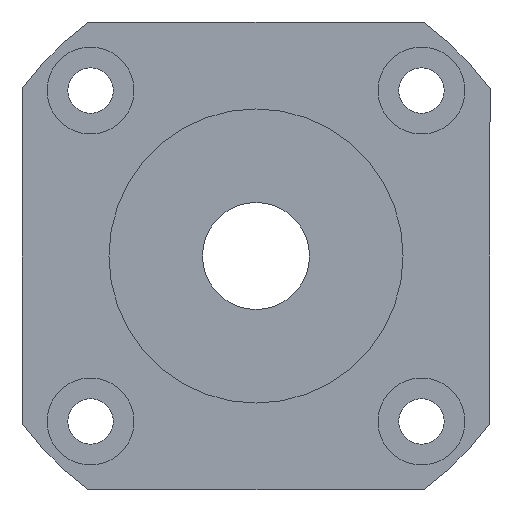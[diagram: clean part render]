
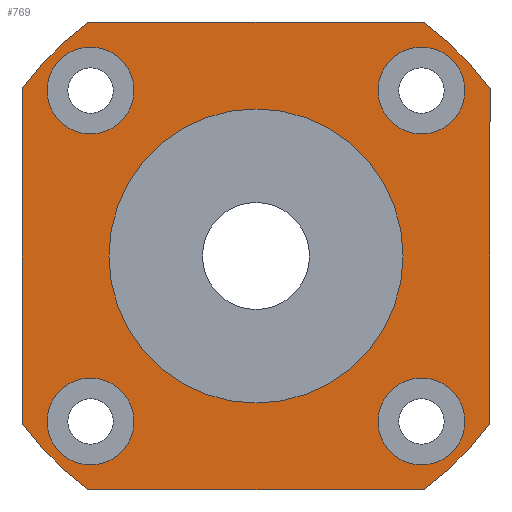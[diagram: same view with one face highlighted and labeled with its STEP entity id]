
A CAD part, left-side view. The second image highlights one B-rep face of the part: STEP entity #769.
In plain terms, the highlighted planar face has unit normal (-1, 0, 0).
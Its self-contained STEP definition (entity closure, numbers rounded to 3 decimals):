
#165=CARTESIAN_POINT('',(0.0,12.374,9.124));
#166=VERTEX_POINT('',#165);
#167=CARTESIAN_POINT('',(0.0,12.374,12.374));
#168=DIRECTION('',(1.0,0.0,0.0));
#169=DIRECTION('',(0.0,0.0,-1.0));
#170=AXIS2_PLACEMENT_3D('',#167,#168,#169);
#171=CIRCLE('',#170,3.25);
#172=EDGE_CURVE('',#166,#166,#171,.T.);
#233=CARTESIAN_POINT('',(0.0,9.124,-12.374));
#234=VERTEX_POINT('',#233);
#235=CARTESIAN_POINT('',(0.0,12.374,-12.374));
#236=DIRECTION('',(1.0,0.0,0.0));
#237=DIRECTION('',(0.0,-1.0,0.0));
#238=AXIS2_PLACEMENT_3D('',#235,#236,#237);
#239=CIRCLE('',#238,3.25);
#240=EDGE_CURVE('',#234,#234,#239,.T.);
#301=CARTESIAN_POINT('',(0.0,-12.374,-9.124));
#302=VERTEX_POINT('',#301);
#303=CARTESIAN_POINT('',(0.0,-12.374,-12.374));
#304=DIRECTION('',(1.0,0.0,0.0));
#305=DIRECTION('',(0.0,0.0,1.0));
#306=AXIS2_PLACEMENT_3D('',#303,#304,#305);
#307=CIRCLE('',#306,3.25);
#308=EDGE_CURVE('',#302,#302,#307,.T.);
#369=CARTESIAN_POINT('',(0.0,-9.124,12.374));
#370=VERTEX_POINT('',#369);
#371=CARTESIAN_POINT('',(0.0,-12.374,12.374));
#372=DIRECTION('',(1.0,0.0,0.0));
#373=DIRECTION('',(0.0,1.0,0.0));
#374=AXIS2_PLACEMENT_3D('',#371,#372,#373);
#375=CIRCLE('',#374,3.25);
#376=EDGE_CURVE('',#370,#370,#375,.T.);
#529=CARTESIAN_POINT('',(0.0,12.49,-17.5));
#530=VERTEX_POINT('',#529);
#537=CARTESIAN_POINT('',(0.0,17.5,-12.49));
#538=VERTEX_POINT('',#537);
#539=CARTESIAN_POINT('',(0.0,0.,0.));
#540=DIRECTION('',(1.0,0.0,0.0));
#541=DIRECTION('',(0.0,1.0,0.0));
#542=AXIS2_PLACEMENT_3D('',#539,#540,#541);
#543=CIRCLE('',#542,21.5);
#544=EDGE_CURVE('',#530,#538,#543,.T.);
#561=CARTESIAN_POINT('',(0.0,-12.49,-17.5));
#562=VERTEX_POINT('',#561);
#569=CARTESIAN_POINT('',(0.0,-12.49,-17.5));
#570=DIRECTION('',(0.0,1.0,0.0));
#571=VECTOR('',#570,24.98);
#572=LINE('',#569,#571);
#573=EDGE_CURVE('',#562,#530,#572,.T.);
#585=CARTESIAN_POINT('',(0.0,-17.5,-12.49));
#586=VERTEX_POINT('',#585);
#593=CARTESIAN_POINT('',(0.0,0.,0.));
#594=DIRECTION('',(1.0,0.0,0.0));
#595=DIRECTION('',(0.0,1.0,0.0));
#596=AXIS2_PLACEMENT_3D('',#593,#594,#595);
#597=CIRCLE('',#596,21.5);
#598=EDGE_CURVE('',#586,#562,#597,.T.);
#610=CARTESIAN_POINT('',(0.0,-17.5,12.49));
#611=VERTEX_POINT('',#610);
#618=CARTESIAN_POINT('',(0.0,-17.5,12.49));
#619=DIRECTION('',(0.0,0.0,-1.0));
#620=VECTOR('',#619,24.98);
#621=LINE('',#618,#620);
#622=EDGE_CURVE('',#611,#586,#621,.T.);
#636=CARTESIAN_POINT('',(0.0,11.,0.));
#637=VERTEX_POINT('',#636);
#638=CARTESIAN_POINT('',(0.0,0.,0.));
#639=DIRECTION('',(1.0,0.0,0.0));
#640=DIRECTION('',(0.0,-1.0,0.0));
#641=AXIS2_PLACEMENT_3D('',#638,#639,#640);
#642=CIRCLE('',#641,11.0);
#643=EDGE_CURVE('',#637,#637,#642,.T.);
#654=CARTESIAN_POINT('',(0.0,-12.49,17.5));
#655=VERTEX_POINT('',#654);
#662=CARTESIAN_POINT('',(0.0,0.,0.));
#663=DIRECTION('',(1.0,0.0,0.0));
#664=DIRECTION('',(0.0,1.0,0.0));
#665=AXIS2_PLACEMENT_3D('',#662,#663,#664);
#666=CIRCLE('',#665,21.5);
#667=EDGE_CURVE('',#655,#611,#666,.T.);
#679=CARTESIAN_POINT('',(0.0,12.49,17.5));
#680=VERTEX_POINT('',#679);
#687=CARTESIAN_POINT('',(0.0,12.49,17.5));
#688=DIRECTION('',(0.0,-1.0,0.0));
#689=VECTOR('',#688,24.98);
#690=LINE('',#687,#689);
#691=EDGE_CURVE('',#680,#655,#690,.T.);
#703=CARTESIAN_POINT('',(0.0,17.5,12.49));
#704=VERTEX_POINT('',#703);
#711=CARTESIAN_POINT('',(0.0,0.,0.));
#712=DIRECTION('',(1.0,0.0,0.0));
#713=DIRECTION('',(0.0,1.0,0.0));
#714=AXIS2_PLACEMENT_3D('',#711,#712,#713);
#715=CIRCLE('',#714,21.5);
#716=EDGE_CURVE('',#704,#680,#715,.T.);
#729=CARTESIAN_POINT('',(0.0,17.5,-12.49));
#730=DIRECTION('',(0.0,0.0,1.0));
#731=VECTOR('',#730,24.98);
#732=LINE('',#729,#731);
#733=EDGE_CURVE('',#538,#704,#732,.T.);
#739=CARTESIAN_POINT('',(0.0,0.,0.));
#740=DIRECTION('',(1.0,0.0,0.0));
#741=DIRECTION('',(0.0,0.0,-1.0));
#742=AXIS2_PLACEMENT_3D('',#739,#740,#741);
#743=PLANE('',#742);
#744=ORIENTED_EDGE('',*,*,#598,.F.);
#745=ORIENTED_EDGE('',*,*,#622,.F.);
#746=ORIENTED_EDGE('',*,*,#667,.F.);
#747=ORIENTED_EDGE('',*,*,#691,.F.);
#748=ORIENTED_EDGE('',*,*,#716,.F.);
#749=ORIENTED_EDGE('',*,*,#733,.F.);
#750=ORIENTED_EDGE('',*,*,#544,.F.);
#751=ORIENTED_EDGE('',*,*,#573,.F.);
#752=EDGE_LOOP('',(#744,#745,#746,#747,#748,#749,#750,#751));
#753=FACE_OUTER_BOUND('',#752,.T.);
#754=ORIENTED_EDGE('',*,*,#172,.T.);
#755=EDGE_LOOP('',(#754));
#756=FACE_BOUND('',#755,.T.);
#757=ORIENTED_EDGE('',*,*,#240,.T.);
#758=EDGE_LOOP('',(#757));
#759=FACE_BOUND('',#758,.T.);
#760=ORIENTED_EDGE('',*,*,#308,.T.);
#761=EDGE_LOOP('',(#760));
#762=FACE_BOUND('',#761,.T.);
#763=ORIENTED_EDGE('',*,*,#376,.T.);
#764=EDGE_LOOP('',(#763));
#765=FACE_BOUND('',#764,.T.);
#766=ORIENTED_EDGE('',*,*,#643,.T.);
#767=EDGE_LOOP('',(#766));
#768=FACE_BOUND('',#767,.T.);
#769=ADVANCED_FACE('',(#753,#756,#759,#762,#765,#768),#743,.F.);
